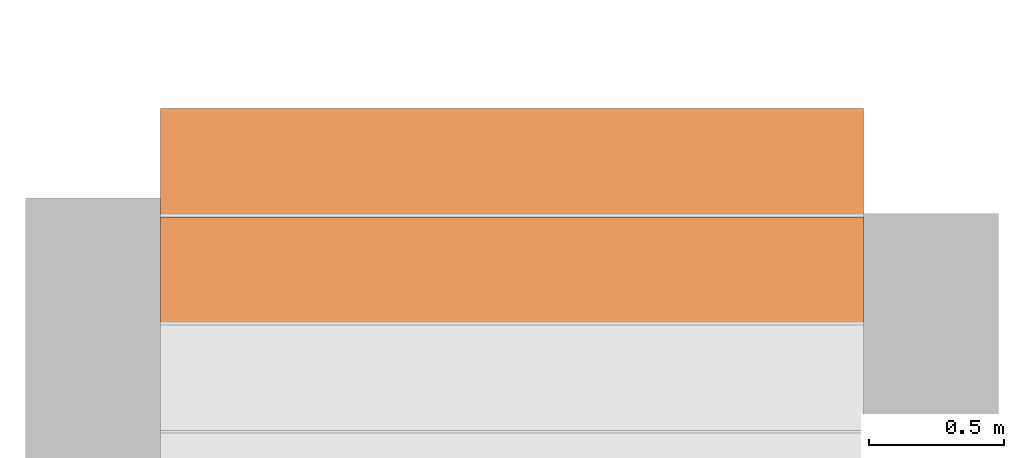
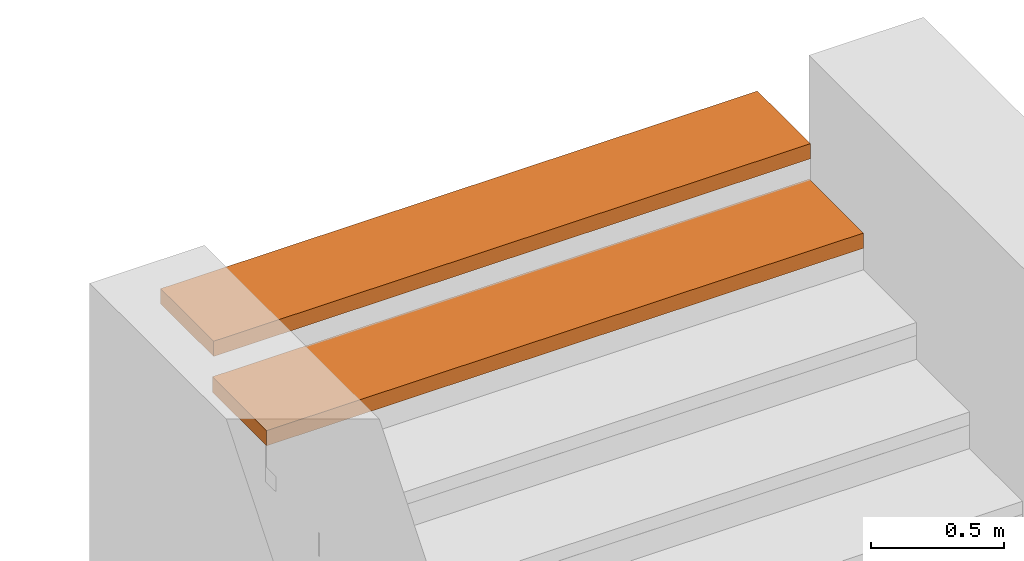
# One storey, part 124 of 127: 2 proxies, 1 element without a shape of its own.
"""IFC2X3 building model written with IfcOpenShell, lengths in millimetres."""

from ifc_helpers import new_model, entity, si_unit, converted_unit, derived_unit, money_unit, direction, frame, origin_with_axes, place, context, subcontext, project, spatial, faceted_brep, material, type_object, element, aggregate, save


model = new_model("IFC2X3")

# Units and contexts
model_context = context("Model", 3, precision=1e-05, world=origin_with_axes(), true_north=direction((0.0, 1.0)))
body_context = subcontext(model_context, "Body", "Model", "MODEL_VIEW")
ifc_project = project(units=[si_unit("LENGTHUNIT", "METRE", prefix="MILLI"), si_unit("AREAUNIT", "SQUARE_METRE"), si_unit("VOLUMEUNIT", "CUBIC_METRE"), converted_unit("PLANEANGLEUNIT", "DEGREE", entity("IfcPlaneAngleMeasure", 0.0174532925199), si_unit("PLANEANGLEUNIT", "RADIAN"), dimensions=[0, 0, 0, 0, 0, 0, 0]), si_unit("SOLIDANGLEUNIT", "STERADIAN"), money_unit("EUR"), converted_unit("TIMEUNIT", "Year", entity("IfcTimeMeasure", 31556926.0), si_unit("TIMEUNIT", "SECOND"), dimensions=[0, 0, 1, 0, 0, 0, 0]), si_unit("MASSUNIT", "GRAM", prefix="KILO"), si_unit("THERMODYNAMICTEMPERATUREUNIT", "DEGREE_CELSIUS"), si_unit("LUMINOUSINTENSITYUNIT", "LUMEN"), si_unit("ENERGYUNIT", "JOULE", prefix="MEGA"), derived_unit("THERMALCONDUCTANCEUNIT", [(si_unit("POWERUNIT", "WATT"), 1), (si_unit("LENGTHUNIT", "METRE"), -1), (si_unit("THERMODYNAMICTEMPERATUREUNIT", "KELVIN"), -1)]), derived_unit("SPECIFICHEATCAPACITYUNIT", [(si_unit("ENERGYUNIT", "JOULE"), 1), (si_unit("MASSUNIT", "GRAM", prefix="KILO"), -1), (si_unit("THERMODYNAMICTEMPERATUREUNIT", "KELVIN"), -1)]), derived_unit("MASSDENSITYUNIT", [(si_unit("MASSUNIT", "GRAM", prefix="KILO"), 1), (si_unit("VOLUMEUNIT", "CUBIC_METRE"), -1)])], contexts=[model_context])

# Site, building, storey
site_placement = place(None, origin_with_axes())
site = spatial("IfcSite", under=ifc_project, at=site_placement, Name="Site", CompositionType="ELEMENT")
building_placement = place(site_placement, origin_with_axes())
building = spatial("IfcBuilding", under=site, at=building_placement, Name="Building", CompositionType="ELEMENT")
storey_placement = place(building_placement, origin_with_axes())
storey = spatial("IfcBuildingStorey", under=building, at=storey_placement, Name="1 KORRUS", CompositionType="ELEMENT", Elevation=0.0)

# Stair, proxies
stair_placement = place(storey_placement, frame((97308.5591363, 50021.275071, 0.0), z_axis=(0.0, 0.0, 1.0), x_axis=(1.0, 0.0, 0.0)))
stair = element("IfcStair", 1, at=stair_placement, inside=storey, Name="TR 7", ShapeType="STRAIGHT_RUN_STAIR")
ifc_material = material(Name="Betoon - Ol.Olev konstruktsioon")
building_element_proxy_type_1 = type_object("IfcBuildingElementProxyType", Name="SF TREAD - 054", PredefinedType="NOTDEFINED")
proxy_1_placement = place(stair_placement, frame((1300.0, 4400.0, 2030.76923077), z_axis=(0.0, 0.0, 1.0), x_axis=(1.0, 0.0, 0.0)))
proxy_1 = element("IfcBuildingElementProxy", 2, at=proxy_1_placement, type_object=building_element_proxy_type_1, material=ifc_material, Name=";  Objekti nimi: Tread 22", context=body_context, shape_type="Brep", body=[
    faceted_brep([(1300.0, 0.0, -70.0), (-1300.0, 0.0, -70.0), (-1300.0, 410.000017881, -70.0), (1300.0, 410.000017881, -70.0), (1260.0, 40.0, -70.0), (1260.0, 370.000017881, -70.0), (-1260.0, 370.000017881, -70.0), (-1260.0, 40.0, -70.0), (1300.0, 0.0, 0.0), (-1300.0, 0.0, 0.0), (-1300.0, 410.000017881, 0.0), (1300.0, 410.000017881, 0.0), (1260.0, 40.0, -60.0), (1260.0, 370.000017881, -60.0), (-1260.0, 370.000017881, -60.0), (-1260.0, 40.0, -60.0)], [[[0, 1, 2, 3], [4, 5, 6, 7]], [[8, 9, 1, 0]], [[9, 10, 2, 1]], [[10, 11, 3, 2]], [[11, 8, 0, 3]], [[5, 4, 12, 13]], [[6, 5, 13, 14]], [[7, 6, 14, 15]], [[4, 7, 15, 12]], [[11, 10, 9, 8]], [[15, 14, 13, 12]]]),
])
building_element_proxy_type_2 = type_object("IfcBuildingElementProxyType", Name="SF TREAD - 055", PredefinedType="NOTDEFINED")
proxy_2_placement = place(stair_placement, frame((1300.0, 4800.0, 2200.0), z_axis=(0.0, 0.0, 1.0), x_axis=(1.0, 0.0, 0.0)))
proxy_2 = element("IfcBuildingElementProxy", 3, at=proxy_2_placement, type_object=building_element_proxy_type_2, material=ifc_material, Name=";  Objekti nimi: Tread 22", context=body_context, shape_type="Brep", body=[
    faceted_brep([(1300.0, 0.0, -70.0), (-1300.0, 0.0, -70.0), (-1300.0, 400.0, -70.0), (1300.0, 400.0, -70.0), (1260.0, 40.0, -70.0), (1260.0, 360.0, -70.0), (-1260.0, 360.0, -70.0), (-1260.0, 40.0, -70.0), (1300.0, 0.0, 0.0), (-1300.0, 0.0, 0.0), (-1300.0, 400.0, 0.0), (1300.0, 400.0, 0.0), (1260.0, 40.0, -60.0), (1260.0, 360.0, -60.0), (-1260.0, 360.0, -60.0), (-1260.0, 40.0, -60.0)], [[[0, 1, 2, 3], [4, 5, 6, 7]], [[8, 9, 1, 0]], [[9, 10, 2, 1]], [[10, 11, 3, 2]], [[11, 8, 0, 3]], [[5, 4, 12, 13]], [[6, 5, 13, 14]], [[7, 6, 14, 15]], [[4, 7, 15, 12]], [[11, 10, 9, 8]], [[15, 14, 13, 12]]]),
])
aggregate(stair, [proxy_1, proxy_2])

save(model, "model.ifc")
